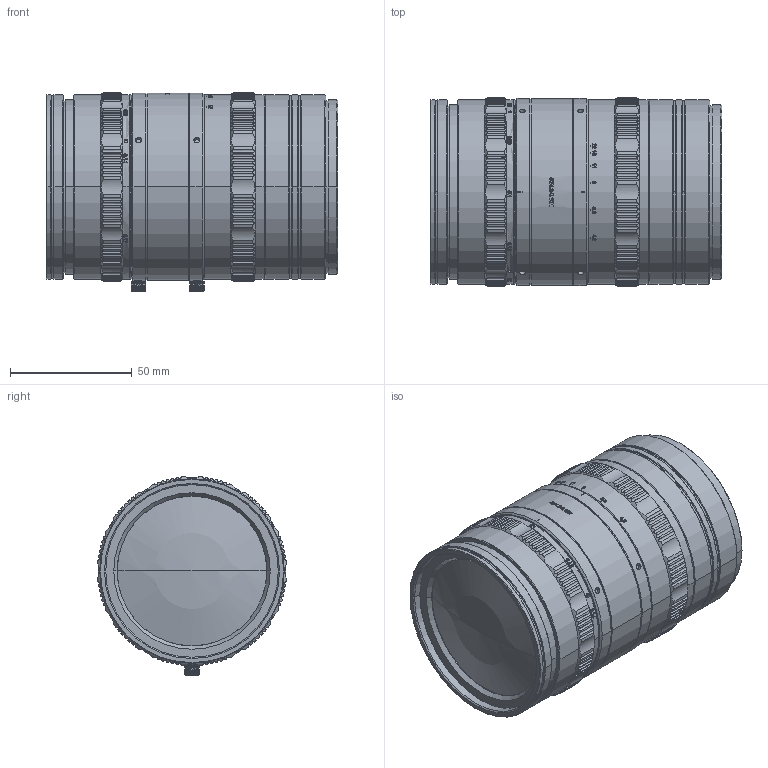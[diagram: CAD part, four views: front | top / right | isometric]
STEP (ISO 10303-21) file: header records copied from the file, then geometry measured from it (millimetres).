
FILE_DESCRIPTION((''),'2;1');
FILE_NAME('MHK4042-0_10X-V1_00001','2022-10-13T09:22:57',('SCI-X3'),(''),'CREO PARAMETRIC BY PTC INC, 2019224','CREO PARAMETRIC BY PTC INC, 2019224','');
FILE_SCHEMA(('AUTOMOTIVE_DESIGN { 1 0 10303 214 1 1 1 1 }'));
Length unit declared in the file: millimetre
Products named in the file (1): MHK4042-0_10X-V1_00001
Bounding box: 120 x 77.75 x 81.88 mm (x, y, z)
Volume: 510509.5 mm3; surface area: 45109.6 mm2
Topology: 1 solids, 21 shells, 1950 faces, 5452 edges, 3666 vertices
Faces by surface type: cylinder 739, bspline 633, plane 397, extrusion 85, cone 64, torus 28, sphere 4
Entity records: 94035 total; most frequent: CARTESIAN_POINT 48695, ORIENTED_EDGE 10894, DIRECTION 7044, EDGE_CURVE 5447, VERTEX_POINT 3664, AXIS2_PLACEMENT_3D 2437, B_SPLINE_CURVE_WITH_KNOTS 2244, VECTOR 2170
